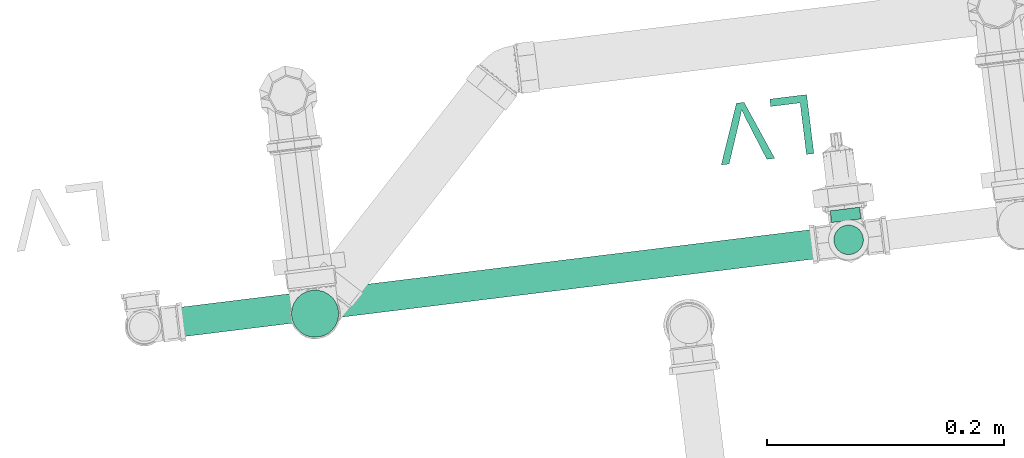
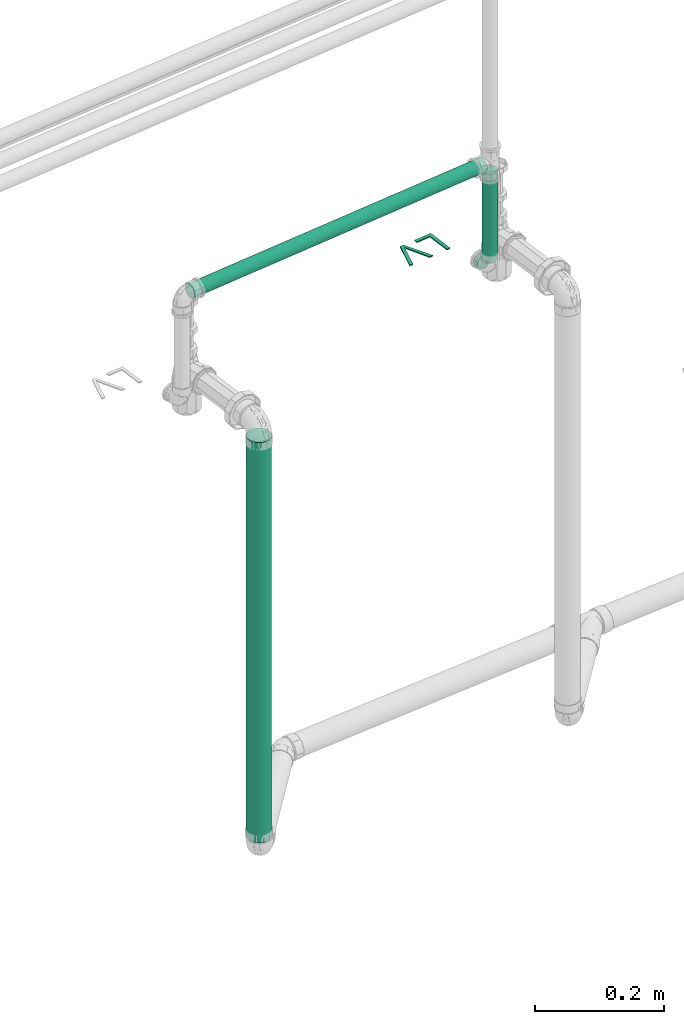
# One storey, part 50 of 97: 3 flow segments, 1 flow terminal.
"""IFC2X3 building model written with IfcOpenShell, lengths in centimetres."""

from ifc_helpers import new_model, entity, si_unit, converted_unit, derived_unit, direction, frame, frame_2d, origin, origin_2d_with_axis, place, context, subcontext, project, spatial, polyline, circle, outline, extrude, source, transform, mapped, material, material_list, type_object, type_shapes, element, save


model = new_model("IFC2X3")

# Units and contexts
model_context = context("Model", 3, precision=0.001, world=origin(), true_north=direction((6.12303176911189e-17, 1.0)))
body_context = subcontext(model_context, "Body", "Model", "MODEL_VIEW")
ifc_project = project(units=[si_unit("LENGTHUNIT", "METRE", prefix="CENTI"), si_unit("AREAUNIT", "SQUARE_METRE"), si_unit("VOLUMEUNIT", "CUBIC_METRE"), converted_unit("PLANEANGLEUNIT", "DEGREE", entity("IfcRatioMeasure", 0.0174532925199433), si_unit("PLANEANGLEUNIT", "RADIAN"), dimensions=[0, 0, 0, 0, 0, 0, 0]), si_unit("MASSUNIT", "GRAM", prefix="KILO"), derived_unit("MASSDENSITYUNIT", [(si_unit("MASSUNIT", "GRAM", prefix="KILO"), 1), (si_unit("LENGTHUNIT", "METRE"), -3)]), derived_unit("MOMENTOFINERTIAUNIT", [(si_unit("LENGTHUNIT", "METRE"), 4)]), si_unit("TIMEUNIT", "SECOND"), si_unit("FREQUENCYUNIT", "HERTZ"), si_unit("THERMODYNAMICTEMPERATUREUNIT", "DEGREE_CELSIUS"), derived_unit("THERMALTRANSMITTANCEUNIT", [(si_unit("MASSUNIT", "GRAM", prefix="KILO"), 1), (si_unit("THERMODYNAMICTEMPERATUREUNIT", "KELVIN"), -1), (si_unit("TIMEUNIT", "SECOND"), -3)]), derived_unit("VOLUMETRICFLOWRATEUNIT", [(si_unit("LENGTHUNIT", "METRE"), 3), (si_unit("TIMEUNIT", "SECOND"), -1)]), si_unit("ELECTRICCURRENTUNIT", "AMPERE"), si_unit("ELECTRICVOLTAGEUNIT", "VOLT"), si_unit("POWERUNIT", "WATT"), si_unit("FORCEUNIT", "NEWTON", prefix="KILO"), si_unit("ILLUMINANCEUNIT", "LUX"), si_unit("LUMINOUSFLUXUNIT", "LUMEN"), si_unit("LUMINOUSINTENSITYUNIT", "CANDELA"), derived_unit("USERDEFINED", [(si_unit("MASSUNIT", "GRAM", prefix="KILO"), -1), (si_unit("LENGTHUNIT", "METRE"), -2), (si_unit("TIMEUNIT", "SECOND"), 3), (si_unit("LUMINOUSFLUXUNIT", "LUMEN"), 1)]), derived_unit("LINEARVELOCITYUNIT", [(si_unit("LENGTHUNIT", "METRE"), 1), (si_unit("TIMEUNIT", "SECOND"), -1)]), si_unit("PRESSUREUNIT", "PASCAL"), derived_unit("USERDEFINED", [(si_unit("LENGTHUNIT", "METRE"), -2), (si_unit("MASSUNIT", "GRAM", prefix="KILO"), 1), (si_unit("TIMEUNIT", "SECOND"), -2)]), derived_unit("LINEARFORCEUNIT", [(si_unit("MASSUNIT", "GRAM", prefix="KILO"), 1), (si_unit("LENGTHUNIT", "METRE"), 1), (si_unit("TIMEUNIT", "SECOND"), -2), (si_unit("LENGTHUNIT", "METRE"), -1)]), derived_unit("PLANARFORCEUNIT", [(si_unit("MASSUNIT", "GRAM", prefix="KILO"), 1), (si_unit("LENGTHUNIT", "METRE"), 1), (si_unit("TIMEUNIT", "SECOND"), -2), (si_unit("LENGTHUNIT", "METRE"), -2)])], contexts=[model_context])

# Site, building, storey
site_placement = place(None, origin())
site = spatial("IfcSite", under=ifc_project, at=site_placement, Name="Default", CompositionType="ELEMENT")
building_placement = place(site_placement, origin())
building = spatial("IfcBuilding", under=site, at=building_placement, Name="HIDROSSANITÁRIO", CompositionType="ELEMENT")
storey_placement = place(building_placement, frame((0.0, 0.0, -260.0)))
storey = spatial("IfcBuildingStorey", under=building, at=storey_placement, Name="TÉRREO-HID", CompositionType="ELEMENT", Elevation=-260.0)

# Flow segments
pipe_segment_type_1 = type_object("IfcPipeSegmentType", Name="Tipos de tubos:Tubo Marrom - Água Fria - Soldável", PredefinedType="NOTDEFINED")
flow_segment_1_placement = place(storey_placement, origin())
element("IfcFlowSegment", 1, at=flow_segment_1_placement, inside=storey, type_object=pipe_segment_type_1, Name="Tipos de tubos:Tubo Marrom - Água Fria - Soldável", ObjectType="Tipos de tubos:Tubo Marrom - Água Fria - Soldável", context=body_context, shape_type="SweptSolid", body=[
    extrude(circle(Radius=1.25, at=frame_2d((-2.16573425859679e-13, 0.0), x_axis=(1.0, 0.0))), frame((-1655.06244479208, 3152.17622329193, 61.63)), (0.0, 0.0, 1.0), 16.78),
])
flow_segment_2_placement = place(storey_placement, origin())
element("IfcFlowSegment", 2, at=flow_segment_2_placement, inside=storey, type_object=pipe_segment_type_1, Name="Tipos de tubos:Tubo Marrom - Água Fria - Soldável", ObjectType="Tipos de tubos:Tubo Marrom - Água Fria - Soldável", context=body_context, shape_type="SweptSolid", body=[
    extrude(circle(Radius=1.25, at=origin_2d_with_axis()), frame((-1713.08465845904, 3145.03519247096, 80.0), z_axis=(0.992511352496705, 0.122152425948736, 0.0), x_axis=(0.122152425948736, -0.992511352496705, 0.0)), (0.0, 0.0, 1.0), 57.0100000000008),
])

# Flow terminal
ifc_material_1 = material(Name=".ID PONTOS DE CONSUMO")
ifc_material_2 = material(Name="<Unnamed>")
ifc_material_list_1 = material_list([ifc_material_1, ifc_material_1, ifc_material_2])
ifc_material_list_2 = material_list([ifc_material_1, ifc_material_1, ifc_material_2])
distribution_element_type = type_object("IfcDistributionElementType", Name="Pontos de Consumo :LAVATÓRIO", material=ifc_material_list_2)
shared_shape = source(origin(), body_context, "Body", "SweptSolid", [
    extrude(outline(polyline([(-1.25570387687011, -1.88355581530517), (1.88355581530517, -1.88355581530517), (1.88355581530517, -1.25570387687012), (-0.627851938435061, -1.25570387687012), (-0.627851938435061, 3.13925969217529), (-1.25570387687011, 3.13925969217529), (-1.25570387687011, -1.88355581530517)])), frame((-3.28228646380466, 9.11204229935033, 0.0), z_axis=(0.0, 0.0, 1.0), x_axis=(-1.0, 0.0, 0.0)), (0.0, 0.0, 1.0), 0.2),
    extrude(outline(polyline([(-0.291035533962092, -2.60978212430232), (0.357663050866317, -2.60978212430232), (2.27187569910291, 2.41303338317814), (1.59987792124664, 2.41303338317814), (0.258334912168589, -1.20569917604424), (-0.00899267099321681, -2.02117093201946), (-0.279999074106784, -1.20569917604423), (-1.61786326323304, 2.41303338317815), (-2.28986104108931, 2.41303338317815), (-0.291035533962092, -2.60978212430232)])), frame((-7.6470019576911, 8.3858159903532, 0.0), z_axis=(0.0, 0.0, 1.0), x_axis=(-1.0, 0.0, 0.0)), (0.0, 0.0, 1.0), 0.2),
    extrude(circle(Radius=1.25, at=frame_2d((-6.58881963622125e-17, -2.01943071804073e-15), x_axis=(1.0, 0.0))), frame((0.0, 0.0, 0.0), z_axis=(0.0, 1.0, 0.0), x_axis=(1.0, 0.0, 0.0)), (0.0, 0.0, 1.0), 1.0),
])
type_shapes(distribution_element_type, [shared_shape])
flow_terminal_placement = place(storey_placement, frame((-1655.26155324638, 3153.7940167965, 60.0), z_axis=(0.0, 0.0, 1.0), x_axis=(0.992511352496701, 0.122152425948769, 0.0)))
element("IfcFlowTerminal", 3, at=flow_terminal_placement, inside=storey, type_object=distribution_element_type, material=ifc_material_list_1, Name="Pontos de Consumo :LAVATÓRIO", ObjectType="Pontos de Consumo :LAVATÓRIO", context=body_context, shape_type="MappedRepresentation", body=[
    mapped(shared_shape, transform((0.0, 0.0, 0.0), scale=1.0)),
])

# Flow segment
pipe_segment_type_2 = type_object("IfcPipeSegmentType", Name="Tipos de tubos:Tubo - Esgoto - Série Normal", PredefinedType="NOTDEFINED")
flow_segment_3_placement = place(storey_placement, origin())
element("IfcFlowSegment", 4, at=flow_segment_3_placement, inside=storey, type_object=pipe_segment_type_2, Name="Tipos de tubos:Tubo - Esgoto - Série Normal", ObjectType="Tipos de tubos:Tubo - Esgoto - Série Normal", context=body_context, shape_type="SweptSolid", body=[
    extrude(circle(Radius=2.0, at=origin_2d_with_axis()), frame((-1700.17488390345, 3145.93576739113, -28.3901384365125)), (0.0, 0.0, 1.0), 76.0101384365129),
])

save(model, "model.ifc")
